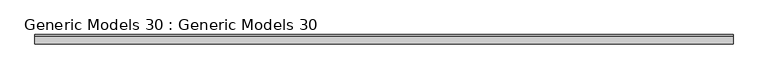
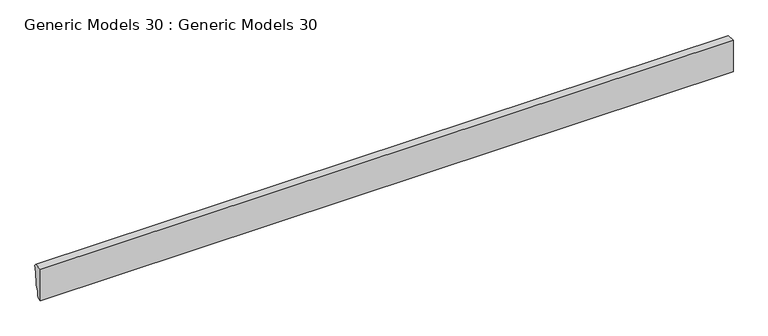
"""IFC4 building model written with IfcOpenShell, lengths in millimetres: proxy geometry, Generic Models 30 : Generic Models 30."""

from ifc_helpers import new_model, si_unit, frame, origin, place, context, project, spatial, circle_curve, source, transform, mapped, element, save
from ifc_brep_helpers import plane_surface, cylinder_surface, extruded_surface, spline_curve, advanced_brep


def generic_models_30_generic_models_30_4a146c5c(model_context):
    return source(origin(), model_context, "Body", "AdvancedBrep", [
        advanced_brep(
        [(4102.1, 381.0, 3695.7), (4102.1, 406.4, 3695.7), (4102.1, 393.7, 3621.3098365), (4102.1, 393.7, 3600.8426919), (4102.1, 381.0, 3594.1), (6210.3, 381.0, 3695.7), (6210.3, 381.0, 3594.1), (6210.3, 393.7, 3600.8426919), (6210.3, 393.7, 3621.3098365), (6210.3, 406.4, 3695.7)],
        [
            (0, 1),
            (1, 2, spline_curve(3, [(4102.1, 406.4, 3695.7), (4102.1, 413.557194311, 3690.68847859), (4102.1, 407.330189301, 3684.461473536), (4102.1, 402.921404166, 3648.654227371), (4102.1, 405.024715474, 3618.275388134), (4102.1, 393.7, 3621.3098365)], [4, 2, 4], [0.0, 0.09464247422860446, 0.19255144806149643])),
            (2, 3),
            (3, 4, circle_curve(frame((4102.1, 383.4957035, 3604.7309933), z_axis=(-1.0, 0.0, 0.0), x_axis=(0.0, 1.0, 0.0)), 10.9200071)),
            (4, 0),
            (5, 6),
            (6, 7, circle_curve(frame((6210.3, 383.4957035, 3604.7309933), z_axis=(1.0, 0.0, 0.0), x_axis=(0.0, 1.0, 0.0)), 10.9200071)),
            (7, 8),
            (8, 9, spline_curve(3, [(6210.3, 393.7, 3621.3098365), (6210.3, 405.024715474, 3618.275388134), (6210.3, 402.921404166, 3648.654227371), (6210.3, 407.330189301, 3684.461473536), (6210.3, 413.557194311, 3690.68847859), (6210.3, 406.4, 3695.7)], [4, 2, 4], [0.0, 0.09790897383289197, 0.19255144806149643])),
            (9, 5),
            (0, 5),
            (9, 1),
            (8, 2),
            (7, 3),
            (6, 4),
        ],
        [
            plane_surface(frame((4102.1, 381.0, 3695.7), z_axis=(-1.0, 0.0, 0.0), x_axis=(0.0, 0.0, 1.0))),
            plane_surface(frame((6210.3, 381.0, 3695.7), z_axis=(1.0, 0.0, 0.0), x_axis=(0.0, 0.0, 1.0))),
            plane_surface(frame((4102.1, 381.0, 3695.7), z_axis=(0.0, 0.0, 1.0), x_axis=(1.0, 0.0, 0.0))),
            extruded_surface(spline_curve(3, [(6210.3, 406.4, 3695.7), (6210.3, 413.557194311, 3690.68847859), (6210.3, 407.330189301, 3684.461473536), (6210.3, 402.921404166, 3648.654227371), (6210.3, 405.024715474, 3618.275388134), (6210.3, 393.7, 3621.3098365)], [4, 2, 4], [0.0, 0.09464247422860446, 0.19255144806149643]), (-2108.2, 0.0, 0.0), 2108.2),
            plane_surface(frame((4102.1, 393.7, 3621.3098365), z_axis=(0.0, 1.0, 0.0), x_axis=(1.0, 0.0, 0.0))),
            cylinder_surface(frame((4102.1, 383.4957035, 3604.7309933), z_axis=(-1.0, 0.0, 0.0), x_axis=(0.0, 1.0, 0.0)), 10.9200071),
            plane_surface(frame((4102.1, 381.0, 3594.1), z_axis=(0.0, -1.0, 0.0), x_axis=(1.0, 0.0, 0.0))),
        ],
        [
            (0, [[1, 2, 3, 4, 5]]),
            (1, [[6, 7, 8, 9, 10]]),
            (2, [[-1, 11, -10, 12]]),
            (3, [[-2, -12, -9, 13]]),
            (4, [[-3, -13, -8, 14]]),
            (5, [[-4, -14, -7, 15]]),
            (6, [[-5, -15, -6, -11]]),
        ],
    ),
    ])


if __name__ == "__main__":
    model = new_model("IFC4")
    model_context = context("Model", 3, world=origin())
    ifc_project = project(units=[si_unit("LENGTHUNIT", "METRE", prefix="MILLI")], contexts=[model_context])
    site = spatial("IfcSite", under=ifc_project)
    building = spatial("IfcBuilding", under=site)
    placement = place(None, origin())
    generic_models_30_generic_models_30_shape = generic_models_30_generic_models_30_4a146c5c(model_context)
    element("IfcBuildingElementProxy", 1, Name="Generic Models 30 : Generic Models 30", ObjectType="Generic Models 30 : Generic Models 30", at=placement, inside=building, context=model_context, shape_type="MappedRepresentation", body=[
        mapped(generic_models_30_generic_models_30_shape, transform((0.0, 0.0, 0.0), x_axis=(1.0, 0.0, 0.0), y_axis=(0.0, 1.0, 0.0), z_axis=(0.0, 0.0, 1.0))),
    ])
    save(model, "model.ifc")
